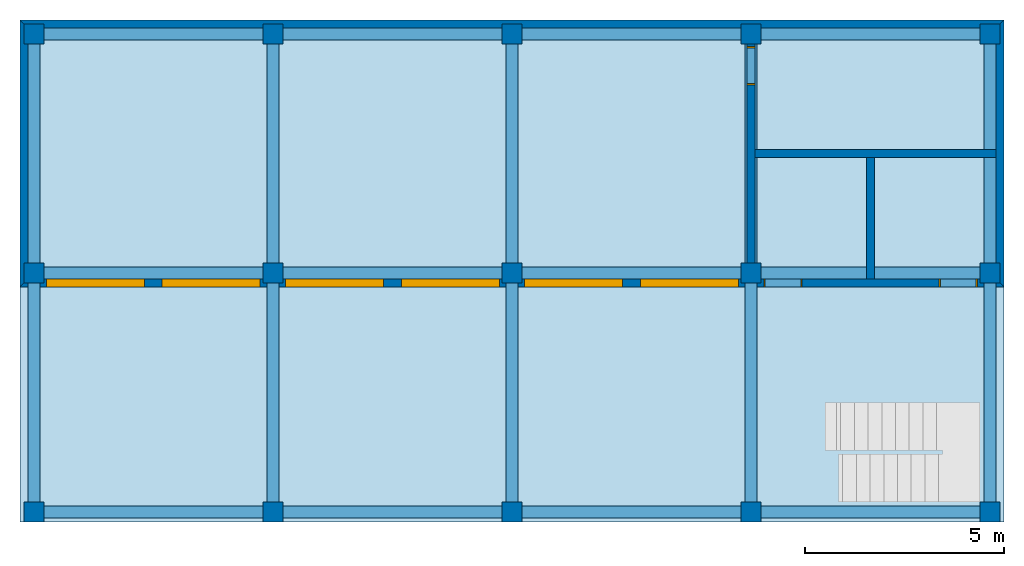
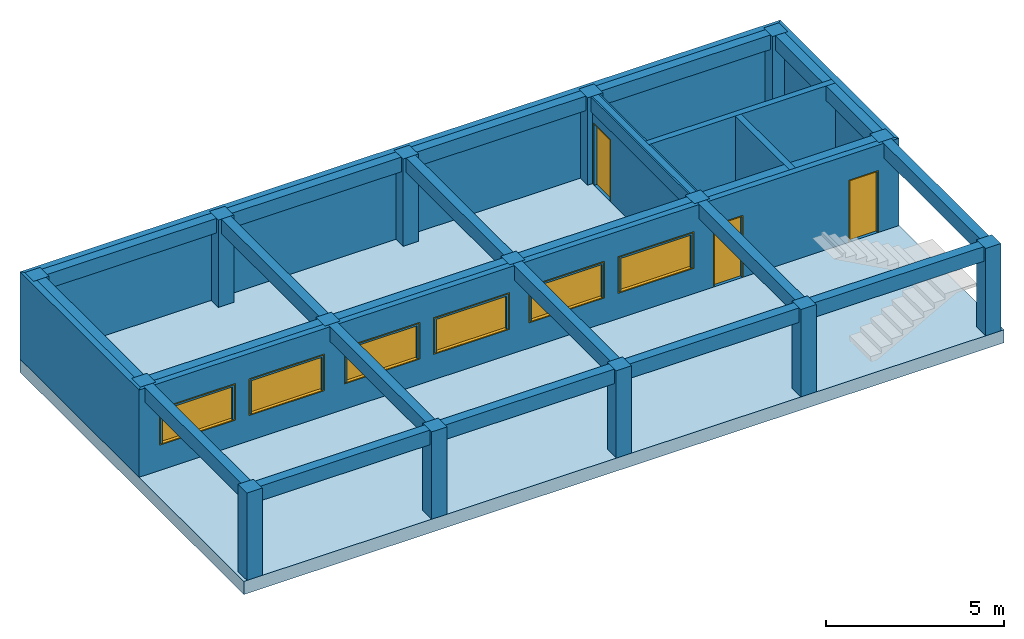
# One storey, part 1 of 2: 22 beams, 15 columns, 7 walls, 6 windows, 3 doors, 1 slab, 9 openings.
"""IFC2X3 building model written with IfcOpenShell, lengths in millimetres."""

from ifc_helpers import new_model, entity, si_unit, converted_unit, direction, frame, frame_2d, origin_with_axes, origin_2d_with_axis, place, context, project, spatial, polyline, rectangle, outline, extrude, open_shell, surface_model, source, transform, mapped, material, layer, layer_set, layer_usage, type_object, element, fill, save


model = new_model("IFC2X3")

# Units and contexts
model_context = context("Model", 3, precision=1e-05, world=origin_with_axes(), true_north=direction((6.123234e-17, 1.0)))
plan_context = context("Plan", 3, precision=1e-05, world=origin_with_axes(), true_north=direction((6.123234e-17, 1.0)))
ifc_project = project(units=[si_unit("LENGTHUNIT", "METRE", prefix="MILLI"), si_unit("AREAUNIT", "SQUARE_METRE"), si_unit("VOLUMEUNIT", "CUBIC_METRE"), converted_unit("PLANEANGLEUNIT", "DEGREE", entity("IfcPlaneAngleMeasure", 0.017453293), si_unit("PLANEANGLEUNIT", "RADIAN"), dimensions=[0, 0, 0, 0, 0, 0, 0]), si_unit("SOLIDANGLEUNIT", "STERADIAN"), si_unit("MASSUNIT", "GRAM"), si_unit("TIMEUNIT", "SECOND"), si_unit("THERMODYNAMICTEMPERATUREUNIT", "DEGREE_CELSIUS"), si_unit("LUMINOUSINTENSITYUNIT", "LUMEN")], contexts=[model_context, plan_context])

# Site, building, storey
site_placement = place(None, origin_with_axes())
site = spatial("IfcSite", under=ifc_project, at=site_placement, Name="\x8aO\x8d\\", CompositionType="ELEMENT")
building_placement = place(site_placement, origin_with_axes())
building = spatial("IfcBuilding", under=site, at=building_placement, Name="20101105_ArchCADMagic_002", CompositionType="ELEMENT")
storey_placement = place(building_placement, frame((0.0, 0.0, 450.0), z_axis=(0.0, 0.0, 1.0), x_axis=(1.0, 0.0, 0.0)))
storey = spatial("IfcBuildingStorey", under=building, at=storey_placement, Name="0. 1\x8aK", CompositionType="ELEMENT", Elevation=450.0)

# Columns
ifc_material = material(Name="\x83R\x83\x93\x83N\x83\x8a\x81[\x83g-\x8d\\\x91¢2")
for number, where, z_axis, x_axis, name in (
    (1, (0.0, 0.0, 0.0), (0.0, 0.0, 1.0), (1.0, 0.0, 0.0), "C2"),
    (2, (-1.669355e-12, 6000.0, 0.0), (0.0, 0.0, 1.0), (1.0, 0.0, 0.0), "C1"),
    (3, (-7.044814e-13, 12000.0, 0.0), (0.0, 0.0, 1.0), (1.0, 0.0, 0.0), "C2"),
    (4, (6000.0, 0.0, 0.0), (0.0, 0.0, 1.0), (1.0, 0.0, 0.0), "C3"),
    (5, (6000.0, 6000.0, 0.0), (0.0, 0.0, 1.0), (1.0, 0.0, 0.0), "C4"),
    (6, (6000.0, 12000.0, 0.0), (0.0, 0.0, 1.0), (1.0, 0.0, 0.0), "C5"),
    (7, (12000.0, 0.0, 0.0), (0.0, 0.0, 1.0), (1.0, 0.0, 0.0), "C6"),
    (8, (12000.0, 6000.0, 0.0), (0.0, 0.0, 1.0), (1.0, 0.0, 0.0), "C7"),
    (9, (12000.0, 12000.0, 0.0), (0.0, 0.0, 1.0), (1.0, 0.0, 0.0), "C8"),
    (10, (18000.0, 0.0, 0.0), (0.0, 0.0, 1.0), (1.0, 0.0, 0.0), "C9"),
    (11, (18000.0, 6000.0, 0.0), (0.0, 0.0, 1.0), (1.0, 0.0, 0.0), "C0"),
    (12, (18000.0, 12000.0, 0.0), (0.0, 0.0, 1.0), (1.0, 0.0, 0.0), "C1"),
    (13, (24000.0, 0.0, 0.0), (0.0, 0.0, 1.0), (1.0, 0.0, 0.0), "C2"),
    (14, (24000.0, 6000.0, 0.0), (0.0, 0.0, 1.0), (1.0, 0.0, 0.0), "C3"),
    (15, (24000.0, 12000.0, 0.0), (0.0, 0.0, 1.0), (1.0, 0.0, 0.0), "C4"),
):
    element("IfcColumn", number, at=place(storey_placement, frame(where, z_axis=z_axis, x_axis=x_axis)), inside=storey, material=ifc_material, Name=name, context=model_context, shape_type="SweptSolid", body=[
        extrude(rectangle(XDim=500.0, YDim=500.0, at=origin_2d_with_axis()), origin_with_axes(), (0.0, 0.0, 1.0), 3000.0),
    ])

# Beams
for number, where, z_axis, x_axis, name in (
    (16, (0.0, 0.0, 3000.0), (0.0, 0.0, 1.0), (1.0, 0.0, 0.0), "G2"),
    (17, (-1.669355e-12, 6000.0, 3000.0), (0.0, 0.0, 1.0), (1.0, 0.0, 0.0), "G2"),
    (18, (6000.0, 0.0, 3000.0), (0.0, 0.0, 1.0), (1.0, 0.0, 0.0), "G2"),
    (19, (6000.0, 6000.0, 3000.0), (0.0, 0.0, 1.0), (1.0, 0.0, 0.0), "G2"),
    (20, (12000.0, 0.0, 3000.0), (0.0, 0.0, 1.0), (1.0, 0.0, 0.0), "G2"),
    (21, (12000.0, 6000.0, 3000.0), (0.0, 0.0, 1.0), (1.0, 0.0, 0.0), "G2"),
    (22, (18000.0, 0.0, 3000.0), (0.0, 0.0, 1.0), (1.0, 0.0, 0.0), "G2"),
    (23, (18000.0, 6000.0, 3000.0), (0.0, 0.0, 1.0), (1.0, 0.0, 0.0), "G2"),
    (24, (24000.0, 0.0, 3000.0), (0.0, 0.0, 1.0), (1.0, 0.0, 0.0), "G2"),
    (25, (24000.0, 6000.0, 3000.0), (0.0, 0.0, 1.0), (1.0, 0.0, 0.0), "G2"),
    (26, (0.0, 0.0, 3000.0), (0.0, 0.0, 1.0), (0.0, -1.0, 0.0), "G6"),
    (27, (8.8817842e-13, 6000.0, 3000.0), (0.0, 0.0, 1.0), (0.0, -1.0, 0.0), "G6"),
    (28, (1.7763568e-12, 12000.0, 3000.0), (0.0, 0.0, 1.0), (0.0, -1.0, 0.0), "G6"),
    (29, (6000.0, 0.0, 3000.0), (0.0, 0.0, 1.0), (0.0, -1.0, 0.0), "G6"),
    (30, (6000.0, 6000.0, 3000.0), (0.0, 0.0, 1.0), (0.0, -1.0, 0.0), "G6"),
    (31, (6000.0, 12000.0, 3000.0), (0.0, 0.0, 1.0), (0.0, -1.0, 0.0), "G6"),
    (32, (12000.0, 0.0, 3000.0), (0.0, 0.0, 1.0), (0.0, -1.0, 0.0), "G6"),
    (33, (12000.0, 6000.0, 3000.0), (0.0, 0.0, 1.0), (0.0, -1.0, 0.0), "G6"),
    (34, (12000.0, 12000.0, 3000.0), (0.0, 0.0, 1.0), (0.0, -1.0, 0.0), "G6"),
    (35, (18000.0, 0.0, 3000.0), (0.0, 0.0, 1.0), (0.0, -1.0, 0.0), "G6"),
    (36, (18000.0, 6000.0, 3000.0), (0.0, 0.0, 1.0), (0.0, -1.0, 0.0), "G6"),
    (37, (18000.0, 12000.0, 3000.0), (0.0, 0.0, 1.0), (0.0, -1.0, 0.0), "G6"),
):
    element("IfcBeam", number, at=place(storey_placement, frame(where, z_axis=z_axis, x_axis=x_axis)), inside=storey, material=ifc_material, Name=name, context=model_context, shape_type="SweptSolid", body=[
        extrude(rectangle(XDim=500.0, YDim=300.0, at=frame_2d((-250.0, 0.0), x_axis=(1.0, 0.0))), frame((0.0, 0.0, 0.0), z_axis=(0.0, 1.0, 0.0), x_axis=(0.0, 0.0, 1.0)), (0.0, 0.0, 1.0), 6000.0),
    ])

# Slab
ifc_layer_1 = layer(ifc_material, 450.0, ventilated="UNKNOWN")
ifc_layer_set_1 = layer_set([ifc_layer_1], Name="\x83R\x83\x93\x83N\x83\x8a\x81[\x83g-\x8d\\\x91¢2 450")
ifc_layer_usage_1 = layer_usage(ifc_layer_set_1, "AXIS3", "NEGATIVE", 450.0)
slab_placement = place(storey_placement, frame((-350.0, 12350.0, -450.0), z_axis=(0.0, 0.0, 1.0), x_axis=(1.0, 0.0, 0.0)))
element("IfcSlab", 38, at=slab_placement, inside=storey, material=ifc_layer_usage_1, Name="S1", PredefinedType="FLOOR", context=model_context, shape_type="SweptSolid", body=[
    extrude(outline(polyline([(0.0, 0.0), (24700.0, 0.0), (24700.0, -12600.0), (0.0, -12600.0), (0.0, 0.0)])), origin_with_axes(), (0.0, 0.0, 1.0), 450.0),
])

# Wall, openings, doors, windows
ifc_layer_2 = layer(ifc_material, 200.0, ventilated="UNKNOWN")
ifc_layer_set_2 = layer_set([ifc_layer_2], Name="\x83R\x83\x93\x83N\x83\x8a\x81[\x83g-\x8d\\\x91¢2 200")
ifc_layer_usage_2 = layer_usage(ifc_layer_set_2, "AXIS2", "NEGATIVE", 100.0)
wall_type = type_object("IfcWallType", Name="\x83R\x83\x93\x83N\x83\x8a\x81[\x83g-\x8d\\\x91¢2 200", PredefinedType="NOTDEFINED", material=ifc_layer_set_2)
wall_1_placement = place(storey_placement, frame((-250.0, 5750.0, 0.0), z_axis=(0.0, 0.0, 1.0), x_axis=(1.0, 0.0, 0.0)))
wall_1 = element("IfcWallStandardCase", 39, at=wall_1_placement, inside=storey, type_object=wall_type, material=ifc_layer_usage_2, Name="W5", context=model_context, shape_type="SweptSolid", body=[
    extrude(outline(polyline([(-100.0, -100.0), (24600.0, -100.0), (24400.0, 100.0), (100.0, 100.0), (-100.0, -100.0)])), origin_with_axes(), (0.0, 0.0, 1.0), 3000.0),
])
opening_1_placement = place(wall_1_placement, frame((19050.0, -100.0, 0.0), z_axis=(0.0, 0.0, 1.0), x_axis=(1.0, 0.0, 0.0)))
opening_1 = element("IfcOpeningElement", 40, at=opening_1_placement, cuts=wall_1, ObjectType="Opening", context=model_context, shape_type="SweptSolid", body=[
    extrude(rectangle(XDim=899.0, YDim=2099.0, at=frame_2d((0.0, 1050.0), x_axis=(1.0, 0.0))), frame((0.0, 0.0, 0.0), z_axis=(0.0, 1.0, 0.0), x_axis=(-1.0, 0.0, 0.0)), (0.0, 0.0, 1.0), 200.0),
])
opening_2_placement = place(wall_1_placement, frame((23450.0, -100.0, 0.0), z_axis=(0.0, 0.0, 1.0), x_axis=(1.0, 0.0, 0.0)))
opening_2 = element("IfcOpeningElement", 41, at=opening_2_placement, cuts=wall_1, ObjectType="Opening", context=model_context, shape_type="SweptSolid", body=[
    extrude(rectangle(XDim=899.0, YDim=2099.0, at=frame_2d((0.0, 1050.0), x_axis=(1.0, 0.0))), frame((0.0, 0.0, 0.0), z_axis=(0.0, 1.0, 0.0), x_axis=(-1.0, 0.0, 0.0)), (0.0, 0.0, 1.0), 200.0),
])
opening_3_placement = place(wall_1_placement, frame((1800.0, -100.0, 900.0), z_axis=(0.0, 0.0, 1.0), x_axis=(1.0, 0.0, 0.0)))
opening_3 = element("IfcOpeningElement", 42, at=opening_3_placement, cuts=wall_1, ObjectType="Opening", context=model_context, shape_type="SweptSolid", body=[
    extrude(rectangle(XDim=2400.0, YDim=1200.0, at=frame_2d((0.0, 600.0), x_axis=(1.0, 0.0))), frame((0.0, 60.0, 0.0), z_axis=(0.0, 1.0, 0.0), x_axis=(-1.0, 0.0, 0.0)), (0.0, 0.0, 1.0), 140.0),
    extrude(rectangle(XDim=2280.0, YDim=1140.0, at=frame_2d((0.0, 570.0), x_axis=(1.0, 0.0))), frame((0.0, 0.0, 0.0), z_axis=(0.0, 1.0, 0.0), x_axis=(-1.0, 0.0, 0.0)), (0.0, 0.0, 1.0), 60.0),
])
opening_4_placement = place(wall_1_placement, frame((4700.0, -100.0, 900.0), z_axis=(0.0, 0.0, 1.0), x_axis=(1.0, 0.0, 0.0)))
opening_4 = element("IfcOpeningElement", 43, at=opening_4_placement, cuts=wall_1, ObjectType="Opening", context=model_context, shape_type="SweptSolid", body=[
    extrude(rectangle(XDim=2400.0, YDim=1200.0, at=frame_2d((0.0, 600.0), x_axis=(1.0, 0.0))), frame((0.0, 60.0, 0.0), z_axis=(0.0, 1.0, 0.0), x_axis=(-1.0, 0.0, 0.0)), (0.0, 0.0, 1.0), 140.0),
    extrude(rectangle(XDim=2280.0, YDim=1140.0, at=frame_2d((0.0, 570.0), x_axis=(1.0, 0.0))), frame((0.0, 0.0, 0.0), z_axis=(0.0, 1.0, 0.0), x_axis=(-1.0, 0.0, 0.0)), (0.0, 0.0, 1.0), 60.0),
])
opening_5_placement = place(wall_1_placement, frame((7800.0, -100.0, 900.0), z_axis=(0.0, 0.0, 1.0), x_axis=(1.0, 0.0, 0.0)))
opening_5 = element("IfcOpeningElement", 44, at=opening_5_placement, cuts=wall_1, ObjectType="Opening", context=model_context, shape_type="SweptSolid", body=[
    extrude(rectangle(XDim=2400.0, YDim=1200.0, at=frame_2d((0.0, 600.0), x_axis=(1.0, 0.0))), frame((0.0, 60.0, 0.0), z_axis=(0.0, 1.0, 0.0), x_axis=(-1.0, 0.0, 0.0)), (0.0, 0.0, 1.0), 140.0),
    extrude(rectangle(XDim=2280.0, YDim=1140.0, at=frame_2d((0.0, 570.0), x_axis=(1.0, 0.0))), frame((0.0, 0.0, 0.0), z_axis=(0.0, 1.0, 0.0), x_axis=(-1.0, 0.0, 0.0)), (0.0, 0.0, 1.0), 60.0),
])
opening_6_placement = place(wall_1_placement, frame((10700.0, -100.0, 900.0), z_axis=(0.0, 0.0, 1.0), x_axis=(1.0, 0.0, 0.0)))
opening_6 = element("IfcOpeningElement", 45, at=opening_6_placement, cuts=wall_1, ObjectType="Opening", context=model_context, shape_type="SweptSolid", body=[
    extrude(rectangle(XDim=2400.0, YDim=1200.0, at=frame_2d((0.0, 600.0), x_axis=(1.0, 0.0))), frame((0.0, 60.0, 0.0), z_axis=(0.0, 1.0, 0.0), x_axis=(-1.0, 0.0, 0.0)), (0.0, 0.0, 1.0), 140.0),
    extrude(rectangle(XDim=2280.0, YDim=1140.0, at=frame_2d((0.0, 570.0), x_axis=(1.0, 0.0))), frame((0.0, 0.0, 0.0), z_axis=(0.0, 1.0, 0.0), x_axis=(-1.0, 0.0, 0.0)), (0.0, 0.0, 1.0), 60.0),
])
opening_7_placement = place(wall_1_placement, frame((13800.0, -100.0, 900.0), z_axis=(0.0, 0.0, 1.0), x_axis=(1.0, 0.0, 0.0)))
opening_7 = element("IfcOpeningElement", 46, at=opening_7_placement, cuts=wall_1, ObjectType="Opening", context=model_context, shape_type="SweptSolid", body=[
    extrude(rectangle(XDim=2400.0, YDim=1200.0, at=frame_2d((0.0, 600.0), x_axis=(1.0, 0.0))), frame((0.0, 60.0, 0.0), z_axis=(0.0, 1.0, 0.0), x_axis=(-1.0, 0.0, 0.0)), (0.0, 0.0, 1.0), 140.0),
    extrude(rectangle(XDim=2280.0, YDim=1140.0, at=frame_2d((0.0, 570.0), x_axis=(1.0, 0.0))), frame((0.0, 0.0, 0.0), z_axis=(0.0, 1.0, 0.0), x_axis=(-1.0, 0.0, 0.0)), (0.0, 0.0, 1.0), 60.0),
])
opening_8_placement = place(wall_1_placement, frame((16700.0, -100.0, 900.0), z_axis=(0.0, 0.0, 1.0), x_axis=(1.0, 0.0, 0.0)))
opening_8 = element("IfcOpeningElement", 47, at=opening_8_placement, cuts=wall_1, ObjectType="Opening", context=model_context, shape_type="SweptSolid", body=[
    extrude(rectangle(XDim=2400.0, YDim=1200.0, at=frame_2d((0.0, 600.0), x_axis=(1.0, 0.0))), frame((0.0, 60.0, 0.0), z_axis=(0.0, 1.0, 0.0), x_axis=(-1.0, 0.0, 0.0)), (0.0, 0.0, 1.0), 140.0),
    extrude(rectangle(XDim=2280.0, YDim=1140.0, at=frame_2d((0.0, 570.0), x_axis=(1.0, 0.0))), frame((0.0, 0.0, 0.0), z_axis=(0.0, 1.0, 0.0), x_axis=(-1.0, 0.0, 0.0)), (0.0, 0.0, 1.0), 60.0),
])
door_style_1 = type_object("IfcDoorStyle", ConstructionType="NOTDEFINED", OperationType="NOTDEFINED", ParameterTakesPrecedence=False, Sizeable=False)
door_1_placement = place(opening_2_placement, frame((-450.0, 110.0, 0.0), z_axis=(0.0, 0.0, 1.0), x_axis=(1.0, 0.0, 0.0)))
door_1 = element("IfcDoor", 48, at=door_1_placement, inside=storey, type_object=door_style_1, Name="SD3", OverallHeight=2100.0, OverallWidth=900.0, context=model_context, shape_type="SurfaceModel", body=[
    surface_model("IfcShellBasedSurfaceModel", [(900.0, -10.0, 0.0), (0.0, -10.0, 0.0), (0.0, -10.0, 2100.0), (900.0, -10.0, 2100.0), (750.0, -10.0, 150.0), (750.0, -10.0, 1950.0), (150.0, -10.0, 1950.0), (150.0, -10.0, 150.0), (750.0, -10.0, 150.0), (150.0, -10.0, 150.0), (150.0, -10.0, 1950.0), (750.0, -10.0, 1950.0), (-30.0, 90.0, 0.0), (-30.0, 90.0, 2130.0), (930.0, 90.0, 2130.0), (930.0, 90.0, 0.0), (900.0, 90.0, 0.0), (900.0, 90.0, 2100.0), (0.0, 90.0, 2100.0), (0.0, 90.0, 0.0), (-30.0, -110.0, 0.0), (-30.0, -110.0, 2130.0), (930.0, -110.0, 2130.0), (930.0, -110.0, 0.0), (900.0, -110.0, 0.0), (900.0, -110.0, 2100.0), (0.0, -110.0, 2100.0), (0.0, -110.0, 0.0), (0.0, 90.0, 0.0), (0.0, 90.0, 2100.0), (0.0, -110.0, 2100.0), (0.0, -110.0, 0.0), (900.0, 90.0, 2100.0), (900.0, -110.0, 2100.0), (-30.0, 90.0, 0.0), (-30.0, -110.0, 0.0), (900.0, 90.0, 0.0), (900.0, -110.0, 0.0), (-30.0, 90.0, 2130.0), (-30.0, -110.0, 2130.0), (930.0, 90.0, 0.0), (930.0, -110.0, 0.0), (930.0, 90.0, 2130.0), (930.0, -110.0, 2130.0)], [open_shell([[[0, 1, 2, 3], [4, 5, 6, 7]]]), open_shell([[[8, 9, 10, 11]]]), open_shell([[[12, 13, 14, 15, 16, 17, 18, 19]]]), open_shell([[[20, 21, 22, 23, 24, 25, 26, 27]]]), open_shell([[[28, 29, 30, 31]], [[29, 32, 33, 30]], [[34, 28, 31, 35]], [[32, 36, 37, 33]], [[38, 34, 35, 39]], [[36, 40, 41, 37]], [[42, 38, 39, 43]], [[40, 42, 43, 41]]])]),
])
fill(opening_2, door_1)
window_style_1 = type_object("IfcWindowStyle", ConstructionType="NOTDEFINED", OperationType="NOTDEFINED", ParameterTakesPrecedence=False, Sizeable=False)
shared_shape_1 = source(origin_with_axes(), model_context, "Body", "SurfaceModel", [
    surface_model("IfcShellBasedSurfaceModel", [(2400.0, 39.95, 0.0), (2400.0, 39.95, 1200.0), (1180.0, 39.95, 1200.0), (1180.0, 39.95, 0.0), (2360.0, 39.95, 40.0), (1220.0, 39.95, 40.0), (1220.0, 39.95, 1160.0), (2360.0, 39.95, 1160.0), (1220.0, 40.0, 0.0), (1220.0, 40.0, 1200.0), (0.0, 40.0, 1200.0), (0.0, 40.0, 0.0), (1180.0, 40.0, 40.0), (40.0, 40.0, 40.0), (40.0, 40.0, 1160.0), (1180.0, 40.0, 1160.0), (2360.0, 39.95, 40.0), (2360.0, 39.95, 1160.0), (1220.0, 39.95, 1160.0), (1220.0, 39.95, 40.0), (1180.0, 40.0, 40.0), (1180.0, 40.0, 1160.0), (40.0, 40.0, 1160.0), (40.0, 40.0, 40.0), (-30.0, -60.0, -30.0), (2430.0, -60.0, -30.0), (2430.0, -60.0, 1230.0), (-30.0, -60.0, 1230.0), (0.0, -60.0, 0.0), (0.0, -60.0, 1200.0), (2400.0, -60.0, 1200.0), (2400.0, -60.0, 0.0), (-30.0, 140.0, -30.0), (2430.0, 140.0, -30.0), (2430.0, 140.0, 1230.0), (-30.0, 140.0, 1230.0), (0.0, 140.0, 0.0), (0.0, 140.0, 1200.0), (2400.0, 140.0, 1200.0), (2400.0, 140.0, 0.0), (-30.0, -60.0, -30.0), (-30.0, 140.0, -30.0), (2430.0, 140.0, -30.0), (2430.0, -60.0, -30.0), (-30.0, -60.0, 1230.0), (-30.0, 140.0, 1230.0), (2430.0, 140.0, 1230.0), (2430.0, -60.0, 1230.0), (0.0, -60.0, 0.0), (0.0, 140.0, 0.0), (2400.0, 140.0, 0.0), (2400.0, -60.0, 0.0), (0.0, -60.0, 1200.0), (0.0, 140.0, 1200.0), (2400.0, 140.0, 1200.0), (2400.0, -60.0, 1200.0)], [open_shell([[[0, 1, 2, 3], [4, 5, 6, 7]]]), open_shell([[[8, 9, 10, 11], [12, 13, 14, 15]]]), open_shell([[[16, 17, 18, 19]]]), open_shell([[[20, 21, 22, 23]]]), open_shell([[[24, 25, 26, 27], [28, 29, 30, 31]]]), open_shell([[[32, 33, 34, 35], [36, 37, 38, 39]]]), open_shell([[[40, 41, 42, 43]], [[44, 45, 41, 40]], [[43, 42, 46, 47]], [[47, 46, 45, 44]]]), open_shell([[[48, 49, 50, 51]], [[52, 53, 49, 48]], [[51, 50, 54, 55]], [[55, 54, 53, 52]]])]),
])
window_1_placement = place(opening_3_placement, frame((-1200.0, 60.0, 0.0), z_axis=(0.0, 0.0, 1.0), x_axis=(1.0, 0.0, 0.0)))
window_1 = element("IfcWindow", 49, at=window_1_placement, inside=storey, type_object=window_style_1, Name="AW1", OverallHeight=1200.0, OverallWidth=2400.0, context=model_context, shape_type="MappedRepresentation", body=[
    mapped(shared_shape_1, transform((0.0, 0.0, 0.0), scale=1.0)),
])
fill(opening_3, window_1)
window_style_2 = type_object("IfcWindowStyle", ConstructionType="NOTDEFINED", OperationType="NOTDEFINED", ParameterTakesPrecedence=False, Sizeable=False)
window_2_placement = place(opening_4_placement, frame((-1200.0, 60.0, 0.0), z_axis=(0.0, 0.0, 1.0), x_axis=(1.0, 0.0, 0.0)))
window_2 = element("IfcWindow", 50, at=window_2_placement, inside=storey, type_object=window_style_2, Name="AW1", OverallHeight=1200.0, OverallWidth=2400.0, context=model_context, shape_type="MappedRepresentation", body=[
    mapped(shared_shape_1, transform((0.0, 0.0, 0.0), scale=1.0)),
])
fill(opening_4, window_2)
window_style_3 = type_object("IfcWindowStyle", ConstructionType="NOTDEFINED", OperationType="NOTDEFINED", ParameterTakesPrecedence=False, Sizeable=False)
window_3_placement = place(opening_5_placement, frame((-1200.0, 60.0, 0.0), z_axis=(0.0, 0.0, 1.0), x_axis=(1.0, 0.0, 0.0)))
window_3 = element("IfcWindow", 51, at=window_3_placement, inside=storey, type_object=window_style_3, Name="AW1", OverallHeight=1200.0, OverallWidth=2400.0, context=model_context, shape_type="MappedRepresentation", body=[
    mapped(shared_shape_1, transform((0.0, 0.0, 0.0), scale=1.0)),
])
fill(opening_5, window_3)
window_style_4 = type_object("IfcWindowStyle", ConstructionType="NOTDEFINED", OperationType="NOTDEFINED", ParameterTakesPrecedence=False, Sizeable=False)
window_4_placement = place(opening_6_placement, frame((-1200.0, 60.0, 0.0), z_axis=(0.0, 0.0, 1.0), x_axis=(1.0, 0.0, 0.0)))
window_4 = element("IfcWindow", 52, at=window_4_placement, inside=storey, type_object=window_style_4, Name="AW1", OverallHeight=1200.0, OverallWidth=2400.0, context=model_context, shape_type="MappedRepresentation", body=[
    mapped(shared_shape_1, transform((0.0, 0.0, 0.0), scale=1.0)),
])
fill(opening_6, window_4)
window_style_5 = type_object("IfcWindowStyle", ConstructionType="NOTDEFINED", OperationType="NOTDEFINED", ParameterTakesPrecedence=False, Sizeable=False)
window_5_placement = place(opening_7_placement, frame((-1200.0, 60.0, 0.0), z_axis=(0.0, 0.0, 1.0), x_axis=(1.0, 0.0, 0.0)))
window_5 = element("IfcWindow", 53, at=window_5_placement, inside=storey, type_object=window_style_5, Name="AW1", OverallHeight=1200.0, OverallWidth=2400.0, context=model_context, shape_type="MappedRepresentation", body=[
    mapped(shared_shape_1, transform((0.0, 0.0, 0.0), scale=1.0)),
])
fill(opening_7, window_5)
window_style_6 = type_object("IfcWindowStyle", ConstructionType="NOTDEFINED", OperationType="NOTDEFINED", ParameterTakesPrecedence=False, Sizeable=False)
window_6_placement = place(opening_8_placement, frame((-1200.0, 60.0, 0.0), z_axis=(0.0, 0.0, 1.0), x_axis=(1.0, 0.0, 0.0)))
window_6 = element("IfcWindow", 54, at=window_6_placement, inside=storey, type_object=window_style_6, Name="AW1", OverallHeight=1200.0, OverallWidth=2400.0, context=model_context, shape_type="MappedRepresentation", body=[
    mapped(shared_shape_1, transform((0.0, 0.0, 0.0), scale=1.0)),
])
fill(opening_8, window_6)
door_style_2 = type_object("IfcDoorStyle", ConstructionType="NOTDEFINED", OperationType="NOTDEFINED", ParameterTakesPrecedence=False, Sizeable=False)
shared_shape_2 = source(origin_with_axes(), model_context, "Body", "SurfaceModel", [
    surface_model("IfcShellBasedSurfaceModel", [(0.0, -10.0, 0.0), (0.0, -10.0, 2100.0), (900.0, -10.0, 2100.0), (900.0, -10.0, 0.0), (150.0, -10.0, 150.0), (750.0, -10.0, 150.0), (750.0, -10.0, 1950.0), (150.0, -10.0, 1950.0), (150.0, -10.0, 150.0), (150.0, -10.0, 1950.0), (750.0, -10.0, 1950.0), (750.0, -10.0, 150.0), (930.0, 90.0, 0.0), (900.0, 90.0, 0.0), (900.0, 90.0, 2100.0), (0.0, 90.0, 2100.0), (0.0, 90.0, 0.0), (-30.0, 90.0, 0.0), (-30.0, 90.0, 2130.0), (930.0, 90.0, 2130.0), (930.0, -110.0, 0.0), (900.0, -110.0, 0.0), (900.0, -110.0, 2100.0), (0.0, -110.0, 2100.0), (0.0, -110.0, 0.0), (-30.0, -110.0, 0.0), (-30.0, -110.0, 2130.0), (930.0, -110.0, 2130.0), (900.0, 90.0, 0.0), (900.0, -110.0, 0.0), (900.0, -110.0, 2100.0), (900.0, 90.0, 2100.0), (930.0, 90.0, 0.0), (930.0, -110.0, 0.0), (0.0, -110.0, 2100.0), (0.0, 90.0, 2100.0), (930.0, 90.0, 2130.0), (930.0, -110.0, 2130.0), (0.0, -110.0, 0.0), (0.0, 90.0, 0.0), (-30.0, 90.0, 2130.0), (-30.0, -110.0, 2130.0), (-30.0, -110.0, 0.0), (-30.0, 90.0, 0.0)], [open_shell([[[0, 1, 2, 3], [4, 5, 6, 7]]]), open_shell([[[8, 9, 10, 11]]]), open_shell([[[12, 13, 14, 15, 16, 17, 18, 19]]]), open_shell([[[20, 21, 22, 23, 24, 25, 26, 27]]]), open_shell([[[28, 29, 30, 31]], [[32, 33, 29, 28]], [[31, 30, 34, 35]], [[36, 37, 33, 32]], [[35, 34, 38, 39]], [[40, 41, 37, 36]], [[39, 38, 42, 43]], [[43, 42, 41, 40]]])]),
])
door_2_placement = place(opening_1_placement, frame((-450.0, 110.0, 0.0), z_axis=(0.0, 0.0, 1.0), x_axis=(1.0, 0.0, 0.0)))
door_2 = element("IfcDoor", 55, at=door_2_placement, inside=storey, type_object=door_style_2, Name="SD2", OverallHeight=2100.0, OverallWidth=900.0, context=model_context, shape_type="MappedRepresentation", body=[
    mapped(shared_shape_2, transform((0.0, 0.0, 0.0), scale=1.0)),
])
fill(opening_1, door_2)

# Walls
ifc_layer_usage_3 = layer_usage(ifc_layer_set_2, "AXIS2", "NEGATIVE", 100.0)
wall_2_placement = place(storey_placement, frame((24250.0, 5750.0, 0.0), z_axis=(0.0, 0.0, 1.0), x_axis=(0.0, 1.0, 0.0)))
element("IfcWallStandardCase", 56, at=wall_2_placement, inside=storey, type_object=wall_type, material=ifc_layer_usage_3, Name="W6", context=model_context, shape_type="SweptSolid", body=[
    extrude(outline(polyline([(-100.0, -100.0), (6600.0, -100.0), (6400.0, 100.0), (100.0, 100.0), (-100.0, -100.0)])), origin_with_axes(), (0.0, 0.0, 1.0), 3000.0),
])
ifc_layer_usage_4 = layer_usage(ifc_layer_set_2, "AXIS2", "NEGATIVE", 100.0)
wall_3_placement = place(storey_placement, frame((24250.0, 12250.0, 0.0), z_axis=(0.0, 0.0, 1.0), x_axis=(-1.0, 0.0, 0.0)))
element("IfcWallStandardCase", 57, at=wall_3_placement, inside=storey, type_object=wall_type, material=ifc_layer_usage_4, Name="W7", context=model_context, shape_type="SweptSolid", body=[
    extrude(outline(polyline([(-100.0, -100.0), (24600.0, -100.0), (24400.0, 100.0), (100.0, 100.0), (-100.0, -100.0)])), origin_with_axes(), (0.0, 0.0, 1.0), 3000.0),
])
ifc_layer_usage_5 = layer_usage(ifc_layer_set_2, "AXIS2", "NEGATIVE", 100.0)
wall_4_placement = place(storey_placement, frame((-250.0, 12250.0, 0.0), z_axis=(0.0, 0.0, 1.0), x_axis=(0.0, -1.0, 0.0)))
element("IfcWallStandardCase", 58, at=wall_4_placement, inside=storey, type_object=wall_type, material=ifc_layer_usage_5, Name="W8", context=model_context, shape_type="SweptSolid", body=[
    extrude(outline(polyline([(-100.0, -100.0), (6600.0, -100.0), (6400.0, 100.0), (100.0, 100.0), (-100.0, -100.0)])), origin_with_axes(), (0.0, 0.0, 1.0), 3000.0),
])

# Wall, opening, door
ifc_layer_usage_6 = layer_usage(ifc_layer_set_2, "AXIS2", "NEGATIVE", 100.0)
wall_5_placement = place(storey_placement, frame((18000.0, 5750.0, 0.0), z_axis=(0.0, 0.0, 1.0), x_axis=(0.0, 1.0, 0.0)))
wall_5 = element("IfcWallStandardCase", 59, at=wall_5_placement, inside=storey, type_object=wall_type, material=ifc_layer_usage_6, Name="W9", context=model_context, shape_type="SweptSolid", body=[
    extrude(outline(polyline([(100.0, -100.0), (6400.0, -100.0), (6400.0, 100.0), (100.0, 100.0), (100.0, -100.0)])), origin_with_axes(), (0.0, 0.0, 1.0), 3000.0),
])
opening_9_placement = place(wall_5_placement, frame((5450.0, -100.0, 0.0), z_axis=(0.0, 0.0, 1.0), x_axis=(1.0, 0.0, 0.0)))
opening_9 = element("IfcOpeningElement", 60, at=opening_9_placement, cuts=wall_5, ObjectType="Opening", context=model_context, shape_type="SweptSolid", body=[
    extrude(rectangle(XDim=899.0, YDim=2099.0, at=frame_2d((0.0, 1050.0), x_axis=(1.0, 0.0))), frame((0.0, 0.0, 0.0), z_axis=(0.0, 1.0, 0.0), x_axis=(-1.0, 0.0, 0.0)), (0.0, 0.0, 1.0), 200.0),
])
door_style_3 = type_object("IfcDoorStyle", ConstructionType="NOTDEFINED", OperationType="NOTDEFINED", ParameterTakesPrecedence=False, Sizeable=False)
shared_shape_3 = source(origin_with_axes(), model_context, "Body", "SurfaceModel", [
    surface_model("IfcShellBasedSurfaceModel", [(0.0, -10.0, 0.0), (0.0, -10.0, 2100.0), (900.0, -10.0, 2100.0), (900.0, -10.0, 0.0), (150.0, -10.0, 150.0), (750.0, -10.0, 150.0), (750.0, -10.0, 1950.0), (150.0, -10.0, 1950.0), (150.0, -10.0, 150.0), (150.0, -10.0, 1950.0), (750.0, -10.0, 1950.0), (750.0, -10.0, 150.0), (930.0, 90.0, 0.0), (900.0, 90.0, 0.0), (900.0, 90.0, 2100.0), (0.0, 90.0, 2100.0), (0.0, 90.0, 0.0), (-30.0, 90.0, 0.0), (-30.0, 90.0, 2130.0), (930.0, 90.0, 2130.0), (930.0, -110.0, 0.0), (900.0, -110.0, 0.0), (900.0, -110.0, 2100.0), (0.0, -110.0, 2100.0), (0.0, -110.0, 0.0), (-30.0, -110.0, 0.0), (-30.0, -110.0, 2130.0), (930.0, -110.0, 2130.0), (900.0, 90.0, 0.0), (900.0, -110.0, 0.0), (900.0, -110.0, 2100.0), (900.0, 90.0, 2100.0), (930.0, 90.0, 0.0), (930.0, -110.0, 0.0), (0.0, -110.0, 2100.0), (0.0, 90.0, 2100.0), (930.0, 90.0, 2130.0), (930.0, -110.0, 2130.0), (0.0, -110.0, 0.0), (0.0, 90.0, 0.0), (-30.0, 90.0, 2130.0), (-30.0, -110.0, 2130.0), (-30.0, -110.0, 0.0), (-30.0, 90.0, 0.0)], [open_shell([[[0, 1, 2, 3], [4, 5, 6, 7]]]), open_shell([[[8, 9, 10, 11]]]), open_shell([[[12, 13, 14, 15, 16, 17, 18, 19]]]), open_shell([[[20, 21, 22, 23, 24, 25, 26, 27]]]), open_shell([[[28, 29, 30, 31]], [[32, 33, 29, 28]], [[31, 30, 34, 35]], [[36, 37, 33, 32]], [[35, 34, 38, 39]], [[40, 41, 37, 36]], [[39, 38, 42, 43]], [[43, 42, 41, 40]]])]),
])
door_3_placement = place(opening_9_placement, frame((450.0, 90.0, 0.0), z_axis=(0.0, 0.0, 1.0), x_axis=(-1.0, 0.0, 0.0)))
door_3 = element("IfcDoor", 61, at=door_3_placement, inside=storey, type_object=door_style_3, Name="SD1", OverallHeight=2100.0, OverallWidth=900.0, context=model_context, shape_type="MappedRepresentation", body=[
    mapped(shared_shape_3, transform((0.0, 0.0, 0.0), scale=1.0)),
])
fill(opening_9, door_3)

# Walls
ifc_layer_usage_7 = layer_usage(ifc_layer_set_2, "AXIS2", "NEGATIVE", 100.0)
wall_6_placement = place(storey_placement, frame((18000.0, 9000.0, 0.0), z_axis=(0.0, 0.0, 1.0), x_axis=(1.0, 0.0, 0.0)))
element("IfcWallStandardCase", 62, at=wall_6_placement, inside=storey, type_object=wall_type, material=ifc_layer_usage_7, Name="W0", context=model_context, shape_type="SweptSolid", body=[
    extrude(outline(polyline([(100.0, -100.0), (6150.0, -100.0), (6150.0, 100.0), (100.0, 100.0), (100.0, -100.0)])), origin_with_axes(), (0.0, 0.0, 1.0), 3000.0),
])
ifc_layer_usage_8 = layer_usage(ifc_layer_set_2, "AXIS2", "NEGATIVE", 100.0)
wall_7_placement = place(storey_placement, frame((21000.0, 5750.0, 0.0), z_axis=(0.0, 0.0, 1.0), x_axis=(0.0, 1.0, 0.0)))
element("IfcWallStandardCase", 63, at=wall_7_placement, inside=storey, type_object=wall_type, material=ifc_layer_usage_8, Name="W1", context=model_context, shape_type="SweptSolid", body=[
    extrude(outline(polyline([(100.0, -100.0), (3150.0, -100.0), (3150.0, 100.0), (100.0, 100.0), (100.0, -100.0)])), origin_with_axes(), (0.0, 0.0, 1.0), 3000.0),
])

save(model, "model.ifc")
